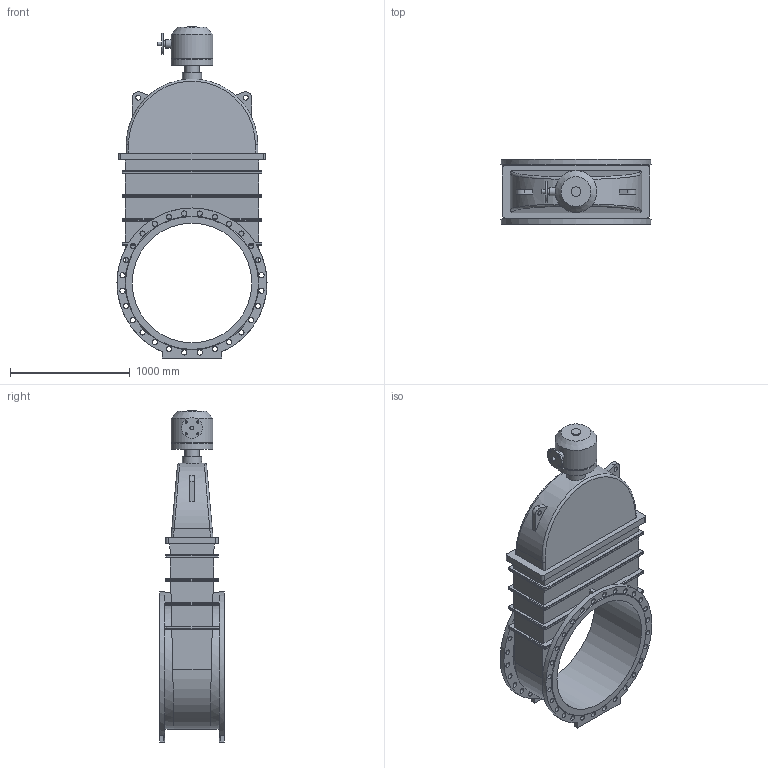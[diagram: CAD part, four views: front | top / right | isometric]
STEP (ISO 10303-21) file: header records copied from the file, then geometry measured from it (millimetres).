
FILE_DESCRIPTION(('STEP AP203'), '1');
FILE_NAME('Çàäâèæêà 47GV.Z DN1000 PN16 + ðåäóêòîð ñ âõîäíûì ôëàíöåì', '', ('UNSPECIFIED'), ('UNSPECIFIED'), 'ASCON STEP Converter 1.6', 'ASCON Math Kernel', '');
FILE_SCHEMA(('CONFIG_CONTROL_DESIGN'));
Length unit declared in the file: millimetre
Bounding box: 1255 x 550 x 2777.5 mm (x, y, z)
Volume: 582298447 mm3; surface area: 10730071.1 mm2
Topology: 1 solids, 1 shells, 297 faces, 742 edges, 469 vertices
Faces by surface type: cylinder 146, plane 114, bspline 34, cone 3
Full cylindrical faces by diameter (mm): 18 x4, 40 x2, 43 x56, 50 x1, 70 x1, 80 x1, 120 x1, 160 x1, 175 x1, 330 x1, 350 x2, 1000 x1, 1255 x2
Entity records: 14345 total; most frequent: CARTESIAN_POINT 5088, DIRECTION 1342, ORIENTED_EDGE 1330, EDGE_CURVE 665, EDGE_LOOP 522, AXIS2_PLACEMENT_3D 516, VERTEX_POINT 469, FACE_BOUND 370
